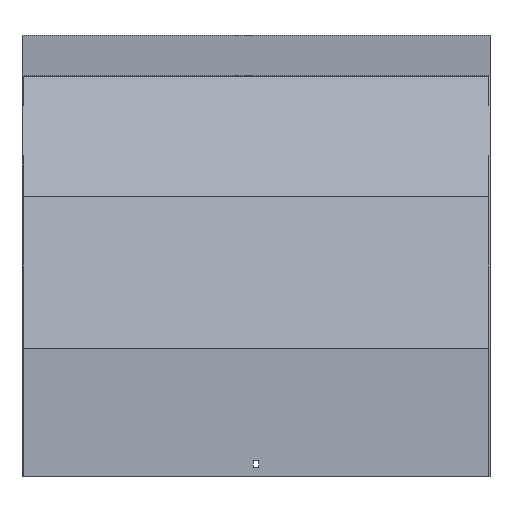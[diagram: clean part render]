
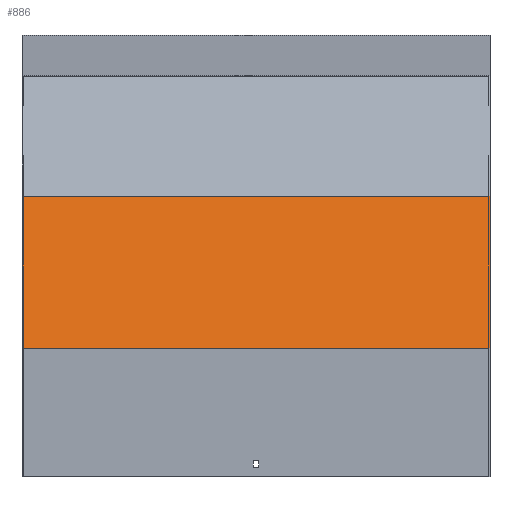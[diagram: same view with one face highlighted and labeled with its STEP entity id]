
A CAD part, top view. The second image highlights one B-rep face of the part: STEP entity #886.
In plain terms, the highlighted planar face has unit normal (0, 0.259, 0.966).
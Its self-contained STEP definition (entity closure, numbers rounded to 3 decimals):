
#80 = VERTEX_POINT ( 'NONE', #687 ) ;
#153 = FACE_OUTER_BOUND ( 'NONE', #593, .T. ) ;
#160 = PLANE ( 'NONE',  #486 ) ;
#170 = CARTESIAN_POINT ( 'NONE',  ( -301.5, -187.902, 517.072 ) ) ;
#219 = VECTOR ( 'NONE', #902, 1000. ) ;
#264 = DIRECTION ( 'NONE',  ( -1., 0., 0. ) ) ;
#333 = ORIENTED_EDGE ( 'NONE', *, *, #1109, .T. ) ;
#370 = EDGE_CURVE ( 'NONE', #567, #80, #501, .T. ) ;
#411 = LINE ( 'NONE', #468, #679 ) ;
#468 = CARTESIAN_POINT ( 'NONE',  ( -301.5, -193.079, 518.459 ) ) ;
#469 = VERTEX_POINT ( 'NONE', #170 ) ;
#486 = AXIS2_PLACEMENT_3D ( 'NONE', #1111, #500, #505 ) ;
#496 = ORIENTED_EDGE ( 'NONE', *, *, #614, .F. ) ;
#498 = VERTEX_POINT ( 'NONE', #956 ) ;
#499 = CARTESIAN_POINT ( 'NONE',  ( 301.5, -187.902, 517.072 ) ) ;
#500 = DIRECTION ( 'NONE',  ( 0., -0.259, -0.966 ) ) ;
#501 = LINE ( 'NONE', #1012, #564 ) ;
#505 = DIRECTION ( 'NONE',  ( 0., 0.966, -0.259 ) ) ;
#564 = VECTOR ( 'NONE', #762, 1000. ) ;
#567 = VERTEX_POINT ( 'NONE', #868 ) ;
#593 = EDGE_LOOP ( 'NONE', ( #903, #659, #496, #333 ) ) ;
#614 = EDGE_CURVE ( 'NONE', #498, #567, #1063, .T. ) ;
#622 = CARTESIAN_POINT ( 'NONE',  ( 301.5, -193.079, 518.459 ) ) ;
#659 = ORIENTED_EDGE ( 'NONE', *, *, #370, .F. ) ;
#679 = VECTOR ( 'NONE', #1058, 1000. ) ;
#687 = CARTESIAN_POINT ( 'NONE',  ( -301.5, -383.978, 569.611 ) ) ;
#751 = VECTOR ( 'NONE', #264, 1000. ) ;
#762 = DIRECTION ( 'NONE',  ( -1., 0., 0. ) ) ;
#846 = LINE ( 'NONE', #499, #751 ) ;
#868 = CARTESIAN_POINT ( 'NONE',  ( 301.5, -383.978, 569.611 ) ) ;
#886 = ADVANCED_FACE ( 'NONE', ( #153 ), #160, .F. ) ;
#892 = EDGE_CURVE ( 'NONE', #469, #80, #411, .T. ) ;
#902 = DIRECTION ( 'NONE',  ( 0., -0.966, 0.259 ) ) ;
#903 = ORIENTED_EDGE ( 'NONE', *, *, #892, .T. ) ;
#956 = CARTESIAN_POINT ( 'NONE',  ( 301.5, -187.902, 517.072 ) ) ;
#1012 = CARTESIAN_POINT ( 'NONE',  ( 301.5, -383.978, 569.611 ) ) ;
#1058 = DIRECTION ( 'NONE',  ( 0., -0.966, 0.259 ) ) ;
#1063 = LINE ( 'NONE', #622, #219 ) ;
#1109 = EDGE_CURVE ( 'NONE', #498, #469, #846, .T. ) ;
#1111 = CARTESIAN_POINT ( 'NONE',  ( 301.5, -193.079, 518.459 ) ) ;
